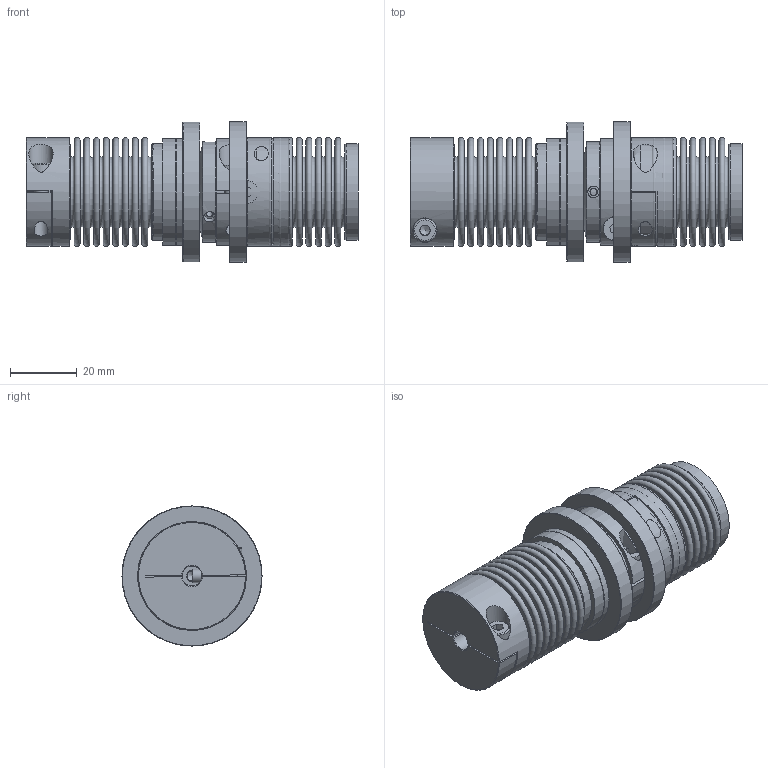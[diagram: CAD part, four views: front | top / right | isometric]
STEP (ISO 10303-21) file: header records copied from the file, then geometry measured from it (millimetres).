
FILE_DESCRIPTION( ( 'Unknown' ), '1' );
FILE_NAME( 'C:/Dokumente und Einstellungen/SKarpstein/Desktop/Korrigierte 3D Modelle/KBK-BKK-4,5-65.stp', 'Unknown', ( 'Unknown' ), ( 'Unknown' ), 'XStep 1.0', 'Unknown', ' ' );
FILE_SCHEMA( ( 'automotive_design' ) );
Length unit declared in the file: millimetre
Products named in the file (11): Assem1; Assem2; Zylinderschraube DIN 912_3; Grundkörper L-K-4,5; Klemmnabe 4,5; Stellring 4,5; Druckring 4,5; Flansch BK4-5; BL45_Standard_0; KN45_Standard_2; Socket Head Cap Screw_DIN_DIN 912 M4 x 12 --- 12N_2
Bounding box: 99.52 x 42 x 42 mm (x, y, z)
Volume: 65844 mm3; surface area: 79204.6 mm2
Topology: 19 solids, 19 shells, 441 faces, 872 edges, 569 vertices
Faces by surface type: plane 208, cylinder 90, torus 82, cone 61
Full cylindrical faces by diameter (mm): 2.013 x6, 3.242 x2, 3.5 x6, 4 x7, 4.2 x4, 6 x4, 7 x5, 7.3 x4, 14 x2, 15 x4, 16 x2, 18 x4, 20 x2, 22 x2, 26 x2, 28.2 x4, 28.8 x4, 29 x2, 30 x2, 32 x4, 32.5 x2, 34 x2, 42 x2
Entity records: 5760 total; most frequent: CARTESIAN_POINT 1330, DIRECTION 913, ORIENTED_EDGE 598, AXIS2_PLACEMENT_3D 418, EDGE_LOOP 390, EDGE_CURVE 299, FACE_OUTER_BOUND 293, VERTEX_POINT 254
